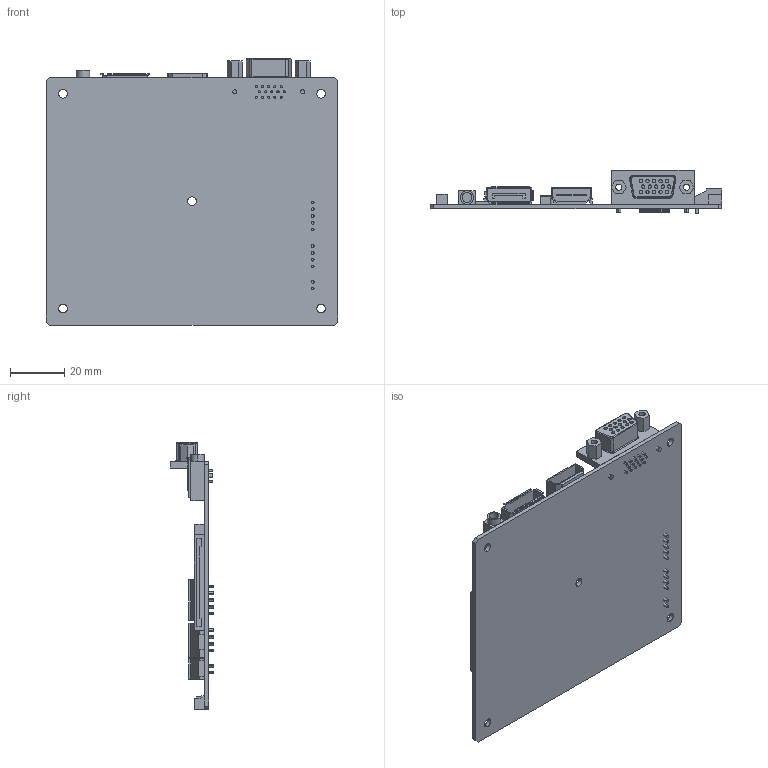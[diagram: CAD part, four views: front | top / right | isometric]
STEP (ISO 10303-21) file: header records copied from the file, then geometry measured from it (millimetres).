
FILE_DESCRIPTION (( 'STEP AP203' ), '1' );
FILE_NAME ('Assy PCB ALT-1920 220131.STEP', '2022-01-31T20:00:59', ( '' ), ( '' ), 'SwSTEP 2.0', 'SolidWorks 2021', '' );
FILE_SCHEMA (( 'CONFIG_CONTROL_DESIGN' ));
Length unit declared in the file: inch
Products named in the file (17): 210017302-3 Conn HDR SMT 2P RA; 212020013-3 3.5mm Stereo Jack; 190010405-3 DIP Switch 4P Horz; PCB ALT-1920 41764001X-3; 212200190-3 HDMI; 210072103-3 Conn Hdr SMT 3P RA; 190010805-3 DIP Switch 8P Horz; 210016004-3 Conn Hdr 4P RA; Assy PCB ALT-1920 220131; 210072106-3 Conn Hdr SMT 6P RA; display port; 210017303-3 Conn HDR SMT 3P RA; 210016005-3 Conn Hdr 5P RA; 210061212-3 Conn 11P RA; 210202815-3 VGA Port Horiz; 210016002-3 Conn Hdr 2P RA; 215090251-3 LVDS 51 pin
Assembly tree (16 placements, depth 2):
  Assy PCB ALT-1920 220131
    PCB ALT-1920 41764001X-3
    212020013-3 3.5mm Stereo Jack
    212200190-3 HDMI
    210202815-3 VGA Port Horiz
    215090251-3 LVDS 51 pin
    display port
    190010405-3 DIP Switch 4P Horz
    190010805-3 DIP Switch 8P Horz
    210016002-3 Conn Hdr 2P RA
    210016004-3 Conn Hdr 4P RA
    210016005-3 Conn Hdr 5P RA
    210017303-3 Conn HDR SMT 3P RA
    210061212-3 Conn 11P RA
    210072106-3 Conn Hdr SMT 6P RA
    210017302-3 Conn HDR SMT 2P RA
    210072103-3 Conn Hdr SMT 3P RA
Bounding box: 107.44 x 15.95 x 98.47 mm (x, y, z)
Volume: 21711.7 mm3; surface area: 31176.7 mm2
Topology: 16 solids, 16 shells, 796 faces, 1881 edges, 1244 vertices
Faces by surface type: plane 637, cylinder 149, torus 10
Entity records: 24554 total; most frequent: CARTESIAN_POINT 3952, DIRECTION 3823, ORIENTED_EDGE 3762, EDGE_CURVE 1881, LINE 1561, VECTOR 1561, VERTEX_POINT 1244, AXIS2_PLACEMENT_3D 1131
